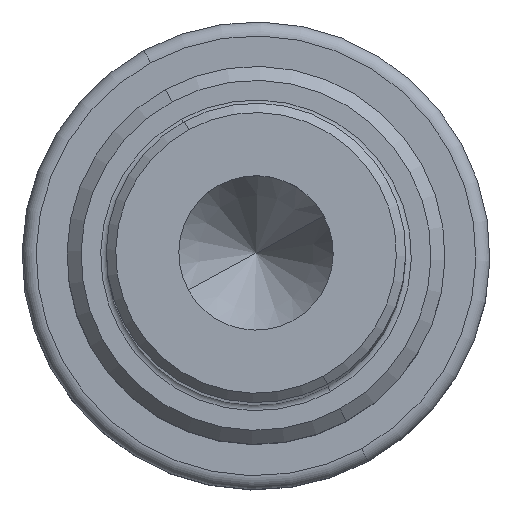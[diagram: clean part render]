
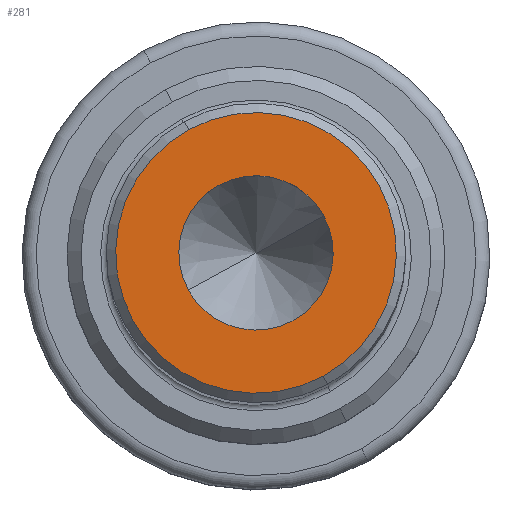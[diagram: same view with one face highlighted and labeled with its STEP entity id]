
A CAD part, top view. The second image highlights one B-rep face of the part: STEP entity #281.
In plain terms, the highlighted planar face has unit normal (0, 0, 1).
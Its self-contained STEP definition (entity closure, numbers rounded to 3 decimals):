
#182=AXIS2_PLACEMENT_3D('Circle Axis2P3D',#180,#181,$) ;
#244=AXIS2_PLACEMENT_3D('Circle Axis2P3D',#242,#243,$) ;
#257=AXIS2_PLACEMENT_3D('Plane Axis2P3D',#254,#255,#256) ;
#265=AXIS2_PLACEMENT_3D('Circle Axis2P3D',#263,#264,$) ;
#274=AXIS2_PLACEMENT_3D('Circle Axis2P3D',#272,#273,$) ;
#177=CARTESIAN_POINT('Vertex',(-7.191,13.164,0.)) ;
#180=CARTESIAN_POINT('Axis2P3D Location',(0.,0.,0.)) ;
#184=CARTESIAN_POINT('Vertex',(7.191,-13.164,0.)) ;
#242=CARTESIAN_POINT('Axis2P3D Location',(0.,0.,0.)) ;
#254=CARTESIAN_POINT('Axis2P3D Location',(0.,15.,0.)) ;
#263=CARTESIAN_POINT('Axis2P3D Location',(0.,0.,0.)) ;
#267=CARTESIAN_POINT('Vertex',(-7.24,-3.955,0.)) ;
#269=CARTESIAN_POINT('Vertex',(-3.955,7.24,0.)) ;
#272=CARTESIAN_POINT('Axis2P3D Location',(0.,0.,0.)) ;
#181=DIRECTION('Axis2P3D Direction',(0.,0.,-1.)) ;
#243=DIRECTION('Axis2P3D Direction',(0.,0.,-1.)) ;
#255=DIRECTION('Axis2P3D Direction',(0.,0.,1.)) ;
#256=DIRECTION('Axis2P3D XDirection',(1.,0.,0.)) ;
#264=DIRECTION('Axis2P3D Direction',(0.,0.,1.)) ;
#273=DIRECTION('Axis2P3D Direction',(0.,0.,1.)) ;
#260=ORIENTED_EDGE('',*,*,#246,.T.) ;
#261=ORIENTED_EDGE('',*,*,#186,.T.) ;
#278=ORIENTED_EDGE('',*,*,#271,.F.) ;
#279=ORIENTED_EDGE('',*,*,#276,.F.) ;
#280=FACE_BOUND('',#277,.T.) ;
#281=ADVANCED_FACE('NOCUT',(#262,#280),#258,.T.) ;
#183=CIRCLE('generated circle',#182,15.) ;
#245=CIRCLE('generated circle',#244,15.) ;
#266=CIRCLE('generated circle',#265,8.25) ;
#275=CIRCLE('generated circle',#274,8.25) ;
#186=EDGE_CURVE('',#185,#178,#183,.F.) ;
#246=EDGE_CURVE('',#178,#185,#245,.F.) ;
#271=EDGE_CURVE('',#268,#270,#266,.T.) ;
#276=EDGE_CURVE('',#270,#268,#275,.T.) ;
#259=EDGE_LOOP('',(#260,#261)) ;
#277=EDGE_LOOP('',(#278,#279)) ;
#262=FACE_OUTER_BOUND('',#259,.T.) ;
#258=PLANE('',#257) ;
#178=VERTEX_POINT('',#177) ;
#185=VERTEX_POINT('',#184) ;
#268=VERTEX_POINT('',#267) ;
#270=VERTEX_POINT('',#269) ;
